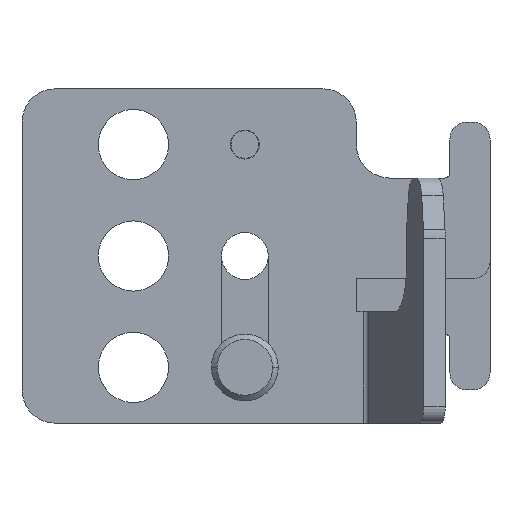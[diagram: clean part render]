
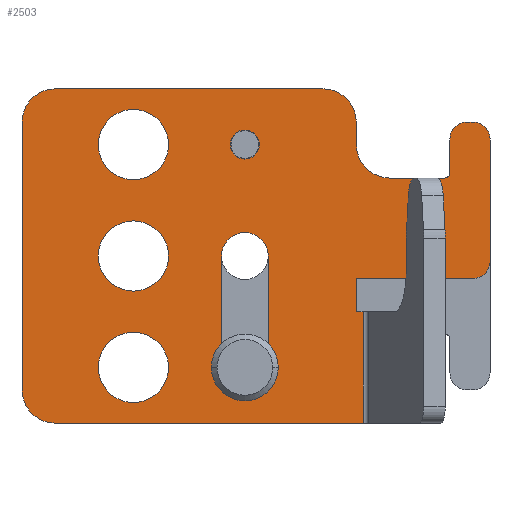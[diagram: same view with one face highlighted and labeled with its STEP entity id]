
A CAD part, left-side view. The second image highlights one B-rep face of the part: STEP entity #2503.
In plain terms, the highlighted planar face has unit normal (-1, 0, 0) as drawn and (1, 0, 0) by its records, which use the part's own axes.
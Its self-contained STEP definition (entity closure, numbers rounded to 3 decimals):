
#1666=CARTESIAN_POINT('',(2.,20.,0.));
#1667=DIRECTION('',(-1.,0.,0.));
#1668=DIRECTION('',(0.,0.,-1.));
#1669=AXIS2_PLACEMENT_3D('',#1666,#1667,#1668);
#1671=CARTESIAN_POINT('',(2.,20.,0.));
#1672=DIRECTION('',(-1.,0.,0.));
#1673=DIRECTION('',(0.,0.,1.));
#1674=AXIS2_PLACEMENT_3D('',#1671,#1672,#1673);
#1676=CARTESIAN_POINT('',(2.,20.,10.));
#1677=DIRECTION('',(-1.,0.,0.));
#1678=DIRECTION('',(0.,0.,-1.));
#1679=AXIS2_PLACEMENT_3D('',#1676,#1677,#1678);
#1681=CARTESIAN_POINT('',(2.,20.,10.));
#1682=DIRECTION('',(-1.,0.,0.));
#1683=DIRECTION('',(0.,0.,1.));
#1684=AXIS2_PLACEMENT_3D('',#1681,#1682,#1683);
#1686=CARTESIAN_POINT('',(2.,20.,-10.));
#1687=DIRECTION('',(-1.,0.,0.));
#1688=DIRECTION('',(0.,0.,-1.));
#1689=AXIS2_PLACEMENT_3D('',#1686,#1687,#1688);
#1691=CARTESIAN_POINT('',(2.,20.,-10.));
#1692=DIRECTION('',(-1.,0.,0.));
#1693=DIRECTION('',(0.,0.,1.));
#1694=AXIS2_PLACEMENT_3D('',#1691,#1692,#1693);
#1696=DIRECTION('',(0.,0.,-1.));
#1697=VECTOR('',#1696,10.);
#1698=CARTESIAN_POINT('',(2.,12.1,10.));
#1699=LINE('',#1698,#1697);
#1700=CARTESIAN_POINT('',(2.,10.,10.));
#1701=DIRECTION('',(-1.,0.,0.));
#1702=DIRECTION('',(0.,-1.,0.));
#1703=AXIS2_PLACEMENT_3D('',#1700,#1701,#1702);
#1705=DIRECTION('',(0.,0.,1.));
#1706=VECTOR('',#1705,10.);
#1707=CARTESIAN_POINT('',(2.,7.9,0.));
#1708=LINE('',#1707,#1706);
#1709=CARTESIAN_POINT('',(2.,10.,0.));
#1710=DIRECTION('',(-1.,0.,0.));
#1711=DIRECTION('',(0.,1.,0.));
#1712=AXIS2_PLACEMENT_3D('',#1709,#1710,#1711);
#1714=CARTESIAN_POINT('',(2.,10.,-10.));
#1715=DIRECTION('',(-1.,0.,0.));
#1716=DIRECTION('',(0.,0.,-1.));
#1717=AXIS2_PLACEMENT_3D('',#1714,#1715,#1716);
#1719=CARTESIAN_POINT('',(2.,10.,-10.));
#1720=DIRECTION('',(-1.,0.,0.));
#1721=DIRECTION('',(0.,0.,1.));
#1722=AXIS2_PLACEMENT_3D('',#1719,#1720,#1721);
#1724=CARTESIAN_POINT('',(2.,-9.9,-10.5));
#1725=DIRECTION('',(1.,0.,0.));
#1726=DIRECTION('',(0.,0.,-1.));
#1727=AXIS2_PLACEMENT_3D('',#1724,#1725,#1726);
#1729=DIRECTION('',(0.,1.,0.));
#1730=VECTOR('',#1729,0.6);
#1731=CARTESIAN_POINT('',(2.,-10.5,-12.));
#1732=LINE('',#1731,#1730);
#1733=CARTESIAN_POINT('',(2.,-10.5,-10.5));
#1734=DIRECTION('',(1.,0.,0.));
#1735=DIRECTION('',(0.,-1.,0.));
#1736=AXIS2_PLACEMENT_3D('',#1733,#1734,#1735);
#1738=DIRECTION('',(0.,0.,-1.));
#1739=VECTOR('',#1738,11.);
#1740=CARTESIAN_POINT('',(2.,-12.,0.5));
#1741=LINE('',#1740,#1739);
#1742=CARTESIAN_POINT('',(2.,-10.5,0.5));
#1743=DIRECTION('',(1.,0.,0.));
#1744=DIRECTION('',(0.,0.,1.));
#1745=AXIS2_PLACEMENT_3D('',#1742,#1743,#1744);
#1747=DIRECTION('',(0.,-1.,0.));
#1748=VECTOR('',#1747,10.5);
#1749=CARTESIAN_POINT('',(2.,0.,2.));
#1750=LINE('',#1749,#1748);
#1751=DIRECTION('',(0.,0.,-1.));
#1752=VECTOR('',#1751,3.);
#1753=CARTESIAN_POINT('',(2.,0.,5.));
#1754=LINE('',#1753,#1752);
#1755=DIRECTION('',(0.,0.,1.));
#1756=VECTOR('',#1755,10.);
#1757=CARTESIAN_POINT('',(2.,-0.616,5.));
#1758=LINE('',#1757,#1756);
#1759=DIRECTION('',(0.,1.,0.));
#1760=VECTOR('',#1759,27.616);
#1761=CARTESIAN_POINT('',(2.,-0.616,15.));
#1762=LINE('',#1761,#1760);
#1763=CARTESIAN_POINT('',(2.,27.,12.));
#1764=DIRECTION('',(1.,0.,0.));
#1765=DIRECTION('',(0.,1.,0.));
#1766=AXIS2_PLACEMENT_3D('',#1763,#1764,#1765);
#1768=DIRECTION('',(0.,0.,1.));
#1769=VECTOR('',#1768,24.);
#1770=CARTESIAN_POINT('',(2.,30.,-12.));
#1771=LINE('',#1770,#1769);
#1772=CARTESIAN_POINT('',(2.,27.,-12.));
#1773=DIRECTION('',(1.,0.,0.));
#1774=DIRECTION('',(0.,0.,-1.));
#1775=AXIS2_PLACEMENT_3D('',#1772,#1773,#1774);
#1777=DIRECTION('',(0.,1.,0.));
#1778=VECTOR('',#1777,24.);
#1779=CARTESIAN_POINT('',(2.,3.,-15.));
#1780=LINE('',#1779,#1778);
#1781=CARTESIAN_POINT('',(2.,3.,-12.));
#1782=DIRECTION('',(1.,0.,0.));
#1783=DIRECTION('',(0.,-1.,0.));
#1784=AXIS2_PLACEMENT_3D('',#1781,#1782,#1783);
#1786=DIRECTION('',(0.,0.,-1.));
#1787=VECTOR('',#1786,2.);
#1788=CARTESIAN_POINT('',(2.,0.,-10.));
#1789=LINE('',#1788,#1787);
#1790=DIRECTION('',(0.,1.,0.));
#1791=VECTOR('',#1790,4.9);
#1792=CARTESIAN_POINT('',(2.,-7.9,-7.));
#1793=LINE('',#1792,#1791);
#1794=DIRECTION('',(0.,0.,1.));
#1795=VECTOR('',#1794,3.);
#1796=CARTESIAN_POINT('',(2.,-8.4,-10.5));
#1797=LINE('',#1796,#1795);
#1851=CARTESIAN_POINT('',(2.,-7.9,-7.5));
#1852=DIRECTION('',(-1.,0.,0.));
#1853=DIRECTION('',(0.,-1.,0.));
#1854=AXIS2_PLACEMENT_3D('',#1851,#1852,#1853);
#1869=CARTESIAN_POINT('',(2.,-3.,-10.));
#1870=DIRECTION('',(-1.,0.,0.));
#1871=DIRECTION('',(0.,0.,1.));
#1872=AXIS2_PLACEMENT_3D('',#1869,#1870,#1871);
#1936=DIRECTION('',(0.,1.,0.));
#1937=VECTOR('',#1936,0.616);
#1938=CARTESIAN_POINT('',(2.,-0.616,5.));
#1939=LINE('',#1938,#1937);
#2142=CARTESIAN_POINT('',(2.,20.,-3.15));
#2143=CARTESIAN_POINT('',(2.,20.,3.15));
#2144=VERTEX_POINT('',#2142);
#2145=VERTEX_POINT('',#2143);
#2146=CARTESIAN_POINT('',(2.,20.,6.85));
#2147=CARTESIAN_POINT('',(2.,20.,13.15));
#2148=VERTEX_POINT('',#2146);
#2149=VERTEX_POINT('',#2147);
#2150=CARTESIAN_POINT('',(2.,20.,-13.15));
#2151=CARTESIAN_POINT('',(2.,20.,-6.85));
#2152=VERTEX_POINT('',#2150);
#2153=VERTEX_POINT('',#2151);
#2155=CARTESIAN_POINT('',(2.,0.,2.));
#2157=VERTEX_POINT('',#2155);
#2166=CARTESIAN_POINT('',(2.,12.1,10.));
#2167=CARTESIAN_POINT('',(2.,12.1,0.));
#2168=VERTEX_POINT('',#2166);
#2169=VERTEX_POINT('',#2167);
#2170=CARTESIAN_POINT('',(2.,7.9,0.));
#2171=VERTEX_POINT('',#2170);
#2172=CARTESIAN_POINT('',(2.,7.9,10.));
#2173=VERTEX_POINT('',#2172);
#2178=CARTESIAN_POINT('',(2.,10.,-11.3));
#2179=CARTESIAN_POINT('',(2.,10.,-8.7));
#2180=VERTEX_POINT('',#2178);
#2181=VERTEX_POINT('',#2179);
#2184=CARTESIAN_POINT('',(2.,-10.5,2.));
#2185=VERTEX_POINT('',#2184);
#2190=CARTESIAN_POINT('',(2.,30.,12.));
#2191=VERTEX_POINT('',#2190);
#2192=CARTESIAN_POINT('',(2.,27.,15.));
#2193=VERTEX_POINT('',#2192);
#2198=CARTESIAN_POINT('',(2.,27.,-15.));
#2199=VERTEX_POINT('',#2198);
#2200=CARTESIAN_POINT('',(2.,30.,-12.));
#2201=VERTEX_POINT('',#2200);
#2204=CARTESIAN_POINT('',(2.,-12.,0.5));
#2205=VERTEX_POINT('',#2204);
#2207=CARTESIAN_POINT('',(2.,0.,-10.));
#2209=VERTEX_POINT('',#2207);
#2211=CARTESIAN_POINT('',(2.,-3.,-7.));
#2213=VERTEX_POINT('',#2211);
#2216=CARTESIAN_POINT('',(2.,-7.9,-7.));
#2217=VERTEX_POINT('',#2216);
#2220=CARTESIAN_POINT('',(2.,-8.4,-7.5));
#2221=VERTEX_POINT('',#2220);
#2226=CARTESIAN_POINT('',(2.,0.,-12.));
#2227=VERTEX_POINT('',#2226);
#2228=CARTESIAN_POINT('',(2.,3.,-15.));
#2229=VERTEX_POINT('',#2228);
#2231=CARTESIAN_POINT('',(2.,0.,5.));
#2233=VERTEX_POINT('',#2231);
#2266=CARTESIAN_POINT('',(2.,-0.616,5.));
#2267=CARTESIAN_POINT('',(2.,-0.616,15.));
#2268=VERTEX_POINT('',#2266);
#2269=VERTEX_POINT('',#2267);
#2298=CARTESIAN_POINT('',(2.,-9.9,-12.));
#2299=CARTESIAN_POINT('',(2.,-8.4,-10.5));
#2300=VERTEX_POINT('',#2298);
#2301=VERTEX_POINT('',#2299);
#2310=CARTESIAN_POINT('',(2.,-12.,-10.5));
#2311=VERTEX_POINT('',#2310);
#2312=CARTESIAN_POINT('',(2.,-10.5,-12.));
#2313=VERTEX_POINT('',#2312);
#2424=CARTESIAN_POINT('',(2.,0.,0.));
#2425=DIRECTION('',(1.,0.,0.));
#2426=DIRECTION('',(0.,-1.,0.));
#2427=AXIS2_PLACEMENT_3D('',#2424,#2425,#2426);
#2428=PLANE('',#2427);
#2430=ORIENTED_EDGE('',*,*,#2429,.F.);
#2432=ORIENTED_EDGE('',*,*,#2431,.F.);
#2434=ORIENTED_EDGE('',*,*,#2433,.F.);
#2436=ORIENTED_EDGE('',*,*,#2435,.F.);
#2438=ORIENTED_EDGE('',*,*,#2437,.F.);
#2440=ORIENTED_EDGE('',*,*,#2439,.F.);
#2442=ORIENTED_EDGE('',*,*,#2441,.F.);
#2444=ORIENTED_EDGE('',*,*,#2443,.F.);
#2446=ORIENTED_EDGE('',*,*,#2445,.T.);
#2448=ORIENTED_EDGE('',*,*,#2447,.T.);
#2450=ORIENTED_EDGE('',*,*,#2449,.F.);
#2452=ORIENTED_EDGE('',*,*,#2451,.F.);
#2454=ORIENTED_EDGE('',*,*,#2453,.F.);
#2456=ORIENTED_EDGE('',*,*,#2455,.F.);
#2458=ORIENTED_EDGE('',*,*,#2457,.F.);
#2460=ORIENTED_EDGE('',*,*,#2459,.F.);
#2462=ORIENTED_EDGE('',*,*,#2461,.F.);
#2464=ORIENTED_EDGE('',*,*,#2463,.F.);
#2466=ORIENTED_EDGE('',*,*,#2465,.F.);
#2468=ORIENTED_EDGE('',*,*,#2467,.F.);
#2469=EDGE_LOOP('',(#2430,#2432,#2434,#2436,#2438,#2440,#2442,#2444,#2446,#2448,
#2450,#2452,#2454,#2456,#2458,#2460,#2462,#2464,#2466,#2468));
#2470=FACE_OUTER_BOUND('',#2469,.F.);
#2471=ORIENTED_EDGE('',*,*,#2404,.F.);
#2472=ORIENTED_EDGE('',*,*,#2418,.F.);
#2473=EDGE_LOOP('',(#2471,#2472));
#2474=FACE_BOUND('',#2473,.F.);
#2476=ORIENTED_EDGE('',*,*,#2475,.F.);
#2478=ORIENTED_EDGE('',*,*,#2477,.F.);
#2479=EDGE_LOOP('',(#2476,#2478));
#2480=FACE_BOUND('',#2479,.F.);
#2482=ORIENTED_EDGE('',*,*,#2481,.F.);
#2484=ORIENTED_EDGE('',*,*,#2483,.F.);
#2485=EDGE_LOOP('',(#2482,#2484));
#2486=FACE_BOUND('',#2485,.F.);
#2488=ORIENTED_EDGE('',*,*,#2487,.F.);
#2490=ORIENTED_EDGE('',*,*,#2489,.F.);
#2492=ORIENTED_EDGE('',*,*,#2491,.F.);
#2494=ORIENTED_EDGE('',*,*,#2493,.F.);
#2495=EDGE_LOOP('',(#2488,#2490,#2492,#2494));
#2496=FACE_BOUND('',#2495,.F.);
#2498=ORIENTED_EDGE('',*,*,#2497,.F.);
#2500=ORIENTED_EDGE('',*,*,#2499,.F.);
#2501=EDGE_LOOP('',(#2498,#2500));
#2502=FACE_BOUND('',#2501,.F.);
#2503=ADVANCED_FACE('',(#2470,#2474,#2480,#2486,#2496,#2502),#2428,.T.);
#1670=CIRCLE('',#1669,3.15);
#1675=CIRCLE('',#1674,3.15);
#1680=CIRCLE('',#1679,3.15);
#1685=CIRCLE('',#1684,3.15);
#1690=CIRCLE('',#1689,3.15);
#1695=CIRCLE('',#1694,3.15);
#1704=CIRCLE('',#1703,2.1);
#1713=CIRCLE('',#1712,2.1);
#1718=CIRCLE('',#1717,1.3);
#1723=CIRCLE('',#1722,1.3);
#1728=CIRCLE('',#1727,1.5);
#1737=CIRCLE('',#1736,1.5);
#1746=CIRCLE('',#1745,1.5);
#1767=CIRCLE('',#1766,3.);
#1776=CIRCLE('',#1775,3.);
#1785=CIRCLE('',#1784,3.);
#1855=CIRCLE('',#1854,0.5);
#1873=CIRCLE('',#1872,3.);
#2404=EDGE_CURVE('',#2144,#2145,#1670,.T.);
#2418=EDGE_CURVE('',#2145,#2144,#1675,.T.);
#2429=EDGE_CURVE('',#2300,#2301,#1728,.T.);
#2431=EDGE_CURVE('',#2313,#2300,#1732,.T.);
#2433=EDGE_CURVE('',#2311,#2313,#1737,.T.);
#2435=EDGE_CURVE('',#2205,#2311,#1741,.T.);
#2437=EDGE_CURVE('',#2185,#2205,#1746,.T.);
#2439=EDGE_CURVE('',#2157,#2185,#1750,.T.);
#2441=EDGE_CURVE('',#2233,#2157,#1754,.T.);
#2443=EDGE_CURVE('',#2268,#2233,#1939,.T.);
#2445=EDGE_CURVE('',#2268,#2269,#1758,.T.);
#2447=EDGE_CURVE('',#2269,#2193,#1762,.T.);
#2449=EDGE_CURVE('',#2191,#2193,#1767,.T.);
#2451=EDGE_CURVE('',#2201,#2191,#1771,.T.);
#2453=EDGE_CURVE('',#2199,#2201,#1776,.T.);
#2455=EDGE_CURVE('',#2229,#2199,#1780,.T.);
#2457=EDGE_CURVE('',#2227,#2229,#1785,.T.);
#2459=EDGE_CURVE('',#2209,#2227,#1789,.T.);
#2461=EDGE_CURVE('',#2213,#2209,#1873,.T.);
#2463=EDGE_CURVE('',#2217,#2213,#1793,.T.);
#2465=EDGE_CURVE('',#2221,#2217,#1855,.T.);
#2467=EDGE_CURVE('',#2301,#2221,#1797,.T.);
#2475=EDGE_CURVE('',#2148,#2149,#1680,.T.);
#2477=EDGE_CURVE('',#2149,#2148,#1685,.T.);
#2481=EDGE_CURVE('',#2152,#2153,#1690,.T.);
#2483=EDGE_CURVE('',#2153,#2152,#1695,.T.);
#2487=EDGE_CURVE('',#2168,#2169,#1699,.T.);
#2489=EDGE_CURVE('',#2173,#2168,#1704,.T.);
#2491=EDGE_CURVE('',#2171,#2173,#1708,.T.);
#2493=EDGE_CURVE('',#2169,#2171,#1713,.T.);
#2497=EDGE_CURVE('',#2180,#2181,#1718,.T.);
#2499=EDGE_CURVE('',#2181,#2180,#1723,.T.);
